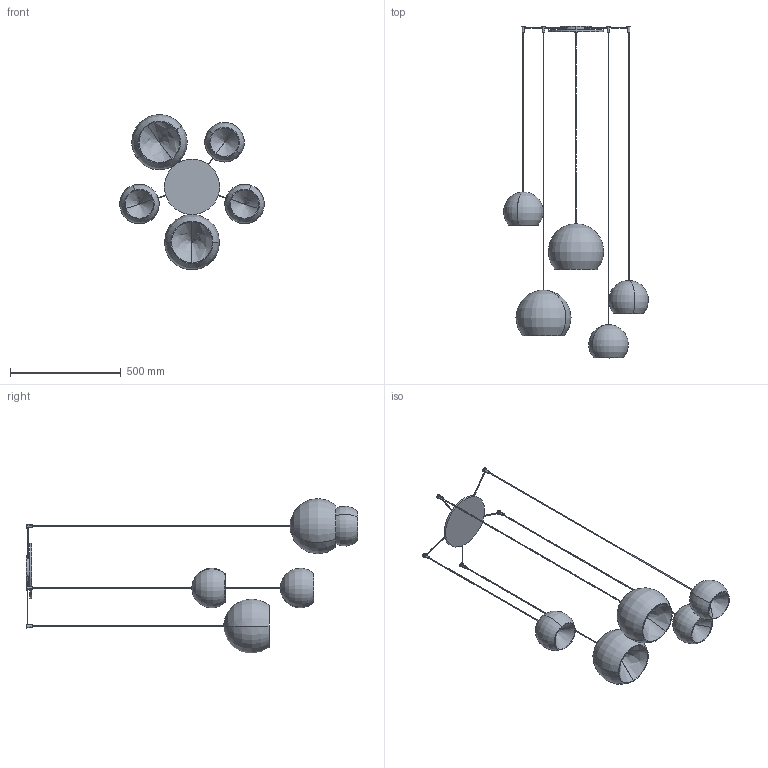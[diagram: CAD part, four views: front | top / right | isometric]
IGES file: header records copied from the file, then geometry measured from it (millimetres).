
Start section: SolidWorks IGES file using analytic representation for surfaces
Global section: file name: Y:\eforma\TECNICO\SOLIDWORKS\E-FORMA\09-LAMPADE\CHERRY MIX\02 parts\CRM05-00-CHERRY MIX_5 SOSPENSIONE.IGS; native system: SolidWorks 2022; preprocessor: SolidWorks 2022; author: eforma.tech; date: 250506.093404; units: millimetre
Bounding box: 654.86 x 1500 x 700.34 mm (x, y, z)
Volume: 2072999.6 mm3; surface area: 1634436.3 mm2
Topology: 26 solids, 26 shells, 193 faces, 408 edges, 258 vertices
Faces by surface type: revolution 134, plane 59
